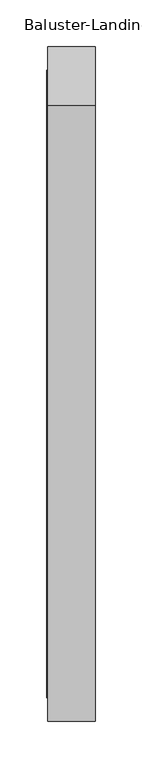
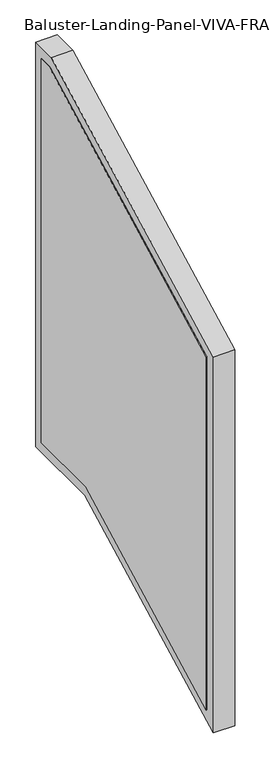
"""IFC4 building model written with IfcOpenShell, lengths in millimetres: railing geometry, Baluster-Landing-Panel-VIVA-FRAME-Lower : Standard_PP01."""

from ifc_helpers import new_model, si_unit, frame, origin, place, context, project, spatial, polyline, outline, extrude, faceted_brep, source, transform, mapped, element, save


def baluster_landing_panel_viva_frame_lower_standard_pp01_3f3e0b9b(model_context):
    return source(origin(), model_context, "Body", "SolidModel", [
        extrude(outline(polyline([(517.599583, -48.5312648), (25.4, -304.75415), (25.4, 572.2573646), (666.7921801, 906.145), (698.8556, 906.145), (698.8556, -48.5312648), (517.599583, -48.5312648)])), frame((14.2584857, 0.0, 0.0), z_axis=(1.0, 0.0, 0.0), x_axis=(0.0, 1.0, 0.0)), (0.0, 0.0, 1.0), 2.9972),
        faceted_brep([(35.6827057, 5.9329371, -336.8348769), (35.6827057, 5.9329371, 584.0702684), (66.4929057, 5.9329371, 584.0702684), (66.4929057, 5.9329371, -336.8348769), (15.6929057, 50.7385371, -262.9975333), (15.6929057, 50.7385371, 556.8815628), (35.6827057, 50.7385371, 556.8815628), (35.6827057, 50.7385371, -262.9975333), (66.4929057, -0.0614629, -346.7133423), (66.4929057, -0.0614629, 587.7077596), (15.6929057, -0.0614629, 587.7077596), (15.6929057, -0.0614629, -346.7133423), (35.6827057, 662.0286201, 925.6120629), (66.4929057, 662.0286201, 925.6120629), (15.6929057, 672.9924806, 880.8064629), (35.6827057, 672.9924806, 880.8064629), (66.4929057, 660.5617997, 931.6064629), (15.6929057, 660.5617997, 931.6064629), (35.6827057, 718.3226629, 925.6120629), (66.4929057, 718.3226629, 925.6120629), (15.6929057, 673.5170629, 880.8064629), (35.6827057, 673.5170629, 880.8064629), (66.4929057, 724.3170629, 931.6064629), (15.6929057, 724.3170629, 931.6064629), (35.6827057, 718.3226629, -67.9983278), (66.4929057, 718.3226629, -67.9983278), (15.6929057, 673.5170629, -23.1927278), (35.6827057, 673.5170629, -23.1927278), (66.4929057, 724.3170629, -73.9927278), (15.6929057, 724.3170629, -73.9927278), (35.6827057, 522.363143, -67.9983278), (66.4929057, 522.363143, -67.9983278), (15.6929057, 511.3992824, -23.1927278), (35.6827057, 511.3992824, -23.1927278), (66.4929057, 523.8299633, -73.9927278), (15.6929057, 523.8299633, -73.9927278)], [[[0, 1, 2, 3]], [[4, 5, 6, 7]], [[8, 9, 10, 11]], [[1, 12, 13, 2]], [[5, 14, 15, 6]], [[9, 16, 17, 10]], [[12, 18, 19, 13]], [[14, 20, 21, 15]], [[16, 22, 23, 17]], [[18, 24, 25, 19]], [[20, 26, 27, 21]], [[22, 28, 29, 23]], [[24, 30, 31, 25]], [[26, 32, 33, 27]], [[28, 34, 35, 29]], [[22, 16, 9, 8, 34, 28], [3, 2, 13, 19, 25, 31]], [[30, 0, 3, 31]], [[18, 12, 1, 0, 30, 24], [7, 6, 15, 21, 27, 33]], [[32, 4, 7, 33]], [[11, 10, 17, 23, 29, 35], [20, 14, 5, 4, 32, 26]], [[34, 8, 11, 35]]]),
    ])


if __name__ == "__main__":
    model = new_model("IFC4")
    model_context = context("Model", 3, world=origin())
    ifc_project = project(units=[si_unit("LENGTHUNIT", "METRE", prefix="MILLI")], contexts=[model_context])
    site = spatial("IfcSite", under=ifc_project)
    building = spatial("IfcBuilding", under=site)
    placement = place(None, origin())
    baluster_landing_panel_viva_frame_lower_standard_pp01_shape = baluster_landing_panel_viva_frame_lower_standard_pp01_3f3e0b9b(model_context)
    element("IfcRailing", 1, ObjectType="Baluster-Landing-Panel-VIVA-FRAME-Lower : Standard_PP01", at=placement, inside=building, context=model_context, shape_type="MappedRepresentation", body=[
        mapped(baluster_landing_panel_viva_frame_lower_standard_pp01_shape, transform((0.0, 0.0, 0.0), x_axis=(1.0, 0.0, 0.0), y_axis=(0.0, 1.0, 0.0), z_axis=(0.0, 0.0, 1.0))),
    ])
    save(model, "model.ifc")
